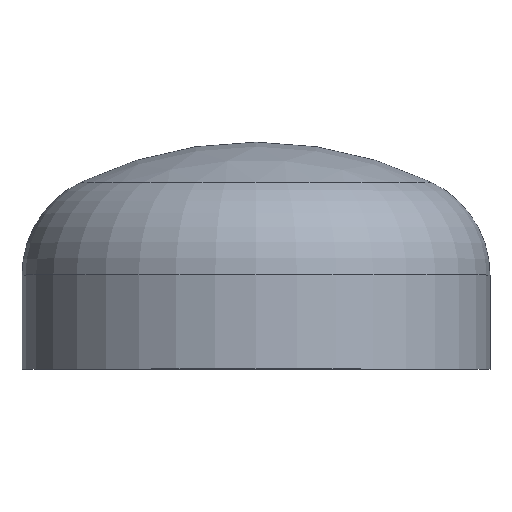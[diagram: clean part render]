
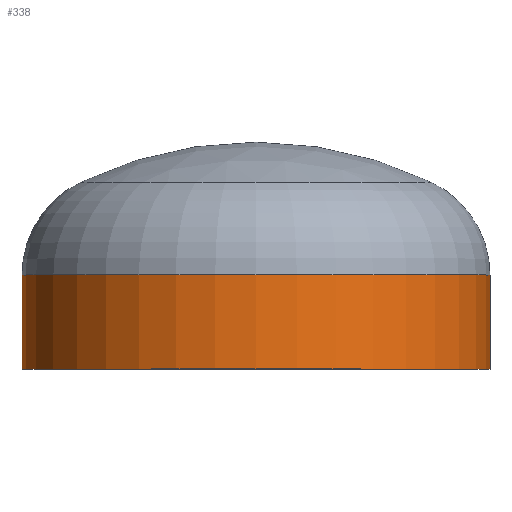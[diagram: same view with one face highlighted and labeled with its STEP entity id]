
A CAD part, top view. The second image highlights one B-rep face of the part: STEP entity #338.
In plain terms, the highlighted cylindrical face has radius 136.5 mm (diameter 273 mm), a partial arc.
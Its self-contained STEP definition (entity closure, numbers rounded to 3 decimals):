
#26 = VERTEX_POINT ( 'NONE', #379 ) ;
#29 = AXIS2_PLACEMENT_3D ( 'NONE', #220, #219, #232 ) ;
#33 = AXIS2_PLACEMENT_3D ( 'NONE', #208, #87, #331 ) ;
#35 = ORIENTED_EDGE ( 'NONE', *, *, #352, .T. ) ;
#36 = AXIS2_PLACEMENT_3D ( 'NONE', #343, #172, #370 ) ;
#50 = VERTEX_POINT ( 'NONE', #273 ) ;
#61 = VERTEX_POINT ( 'NONE', #368 ) ;
#81 = CIRCLE ( 'NONE', #29, 136.5 ) ;
#87 = DIRECTION ( 'NONE',  ( 0., -1., 0. ) ) ;
#103 = VERTEX_POINT ( 'NONE', #193 ) ;
#105 = EDGE_LOOP ( 'NONE', ( #35, #107, #128, #111 ) ) ;
#107 = ORIENTED_EDGE ( 'NONE', *, *, #127, .T. ) ;
#111 = ORIENTED_EDGE ( 'NONE', *, *, #176, .F. ) ;
#122 = DIRECTION ( 'NONE',  ( 0., -1., 0. ) ) ;
#127 = EDGE_CURVE ( 'NONE', #103, #26, #254, .T. ) ;
#128 = ORIENTED_EDGE ( 'NONE', *, *, #350, .F. ) ;
#172 = DIRECTION ( 'NONE',  ( 0., -1., 0. ) ) ;
#176 = EDGE_CURVE ( 'NONE', #50, #61, #341, .T. ) ;
#193 = CARTESIAN_POINT ( 'NONE',  ( -136.5, 55., 0. ) ) ;
#194 = CYLINDRICAL_SURFACE ( 'NONE', #36, 136.5 ) ;
#207 = FACE_OUTER_BOUND ( 'NONE', #105, .T. ) ;
#208 = CARTESIAN_POINT ( 'NONE',  ( 0., 0., 0. ) ) ;
#219 = DIRECTION ( 'NONE',  ( 0., -1., 0. ) ) ;
#220 = CARTESIAN_POINT ( 'NONE',  ( 0., 55., 0. ) ) ;
#232 = DIRECTION ( 'NONE',  ( 1., 0., 0. ) ) ;
#234 = CARTESIAN_POINT ( 'NONE',  ( 136.5, 0., 0. ) ) ;
#254 = LINE ( 'NONE', #337, #374 ) ;
#273 = CARTESIAN_POINT ( 'NONE',  ( 136.5, 55., 0. ) ) ;
#279 = VECTOR ( 'NONE', #122, 1000. ) ;
#323 = CIRCLE ( 'NONE', #33, 136.5 ) ;
#331 = DIRECTION ( 'NONE',  ( 1., 0., 0. ) ) ;
#336 = DIRECTION ( 'NONE',  ( 0., -1., 0. ) ) ;
#337 = CARTESIAN_POINT ( 'NONE',  ( -136.5, 0., 0. ) ) ;
#338 = ADVANCED_FACE ( 'NONE', ( #207 ), #194, .T. ) ;
#341 = LINE ( 'NONE', #234, #279 ) ;
#343 = CARTESIAN_POINT ( 'NONE',  ( 0., 0., 0. ) ) ;
#350 = EDGE_CURVE ( 'NONE', #61, #26, #323, .T. ) ;
#352 = EDGE_CURVE ( 'NONE', #50, #103, #81, .T. ) ;
#368 = CARTESIAN_POINT ( 'NONE',  ( 136.5, 0., 0. ) ) ;
#370 = DIRECTION ( 'NONE',  ( 1., 0., 0. ) ) ;
#374 = VECTOR ( 'NONE', #336, 1000. ) ;
#379 = CARTESIAN_POINT ( 'NONE',  ( -136.5, 0., 0. ) ) ;
